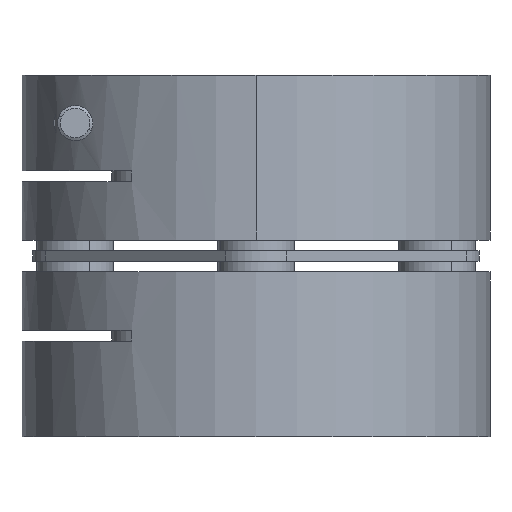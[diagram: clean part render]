
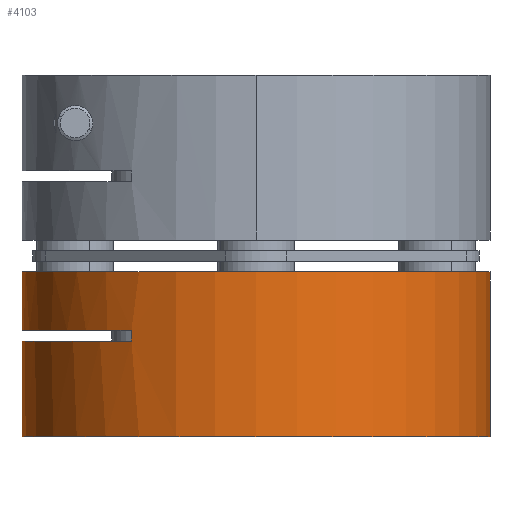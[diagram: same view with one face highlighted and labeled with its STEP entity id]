
A CAD part, left-side view. The second image highlights one B-rep face of the part: STEP entity #4103.
In plain terms, the highlighted cylindrical face has radius 22 mm (diameter 44 mm), a partial arc.
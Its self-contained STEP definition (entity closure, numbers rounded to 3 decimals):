
#1 = DIRECTION ( 'NONE',  ( 0., 0., 1. ) ) ;
#221 = DIRECTION ( 'NONE',  ( 0., 0., 1. ) ) ;
#248 = EDGE_CURVE ( 'NONE', #780, #3291, #8507, .T. ) ;
#448 = DIRECTION ( 'NONE',  ( 0., -1., 0. ) ) ;
#665 = DIRECTION ( 'NONE',  ( 0., 0., 1. ) ) ;
#780 = VERTEX_POINT ( 'NONE', #4946 ) ;
#1038 = AXIS2_PLACEMENT_3D ( 'NONE', #2430, #9519, #3442 ) ;
#1344 = ORIENTED_EDGE ( 'NONE', *, *, #10943, .T. ) ;
#1498 = LINE ( 'NONE', #4295, #8975 ) ;
#1530 = CARTESIAN_POINT ( 'NONE',  ( 5.562, 71.072, 69.386 ) ) ;
#1728 = DIRECTION ( 'NONE',  ( 0., 0., -1. ) ) ;
#2091 = CARTESIAN_POINT ( 'NONE',  ( 5.562, 27.072, 69.386 ) ) ;
#2130 = VERTEX_POINT ( 'NONE', #2482 ) ;
#2146 = AXIS2_PLACEMENT_3D ( 'NONE', #7844, #1728, #8822 ) ;
#2153 = AXIS2_PLACEMENT_3D ( 'NONE', #9978, #3932, #10994 ) ;
#2317 = FACE_OUTER_BOUND ( 'NONE', #10554, .T. ) ;
#2320 = EDGE_CURVE ( 'NONE', #4163, #2130, #3557, .T. ) ;
#2430 = CARTESIAN_POINT ( 'NONE',  ( 5.562, 49.072, 69.386 ) ) ;
#2454 = CARTESIAN_POINT ( 'NONE',  ( 5.562, 71.072, 78.386 ) ) ;
#2482 = CARTESIAN_POINT ( 'NONE',  ( 5.562, 27.072, 84.886 ) ) ;
#2924 = EDGE_CURVE ( 'NONE', #8516, #8389, #7990, .T. ) ;
#2936 = CIRCLE ( 'NONE', #1038, 22. ) ;
#3020 = CIRCLE ( 'NONE', #6405, 22. ) ;
#3291 = VERTEX_POINT ( 'NONE', #6224 ) ;
#3320 = ORIENTED_EDGE ( 'NONE', *, *, #5131, .T. ) ;
#3442 = DIRECTION ( 'NONE',  ( 0., 1., 0. ) ) ;
#3557 = LINE ( 'NONE', #10810, #11636 ) ;
#3924 = VERTEX_POINT ( 'NONE', #6711 ) ;
#3932 = DIRECTION ( 'NONE',  ( 0., 0., 1. ) ) ;
#4096 = DIRECTION ( 'NONE',  ( 0., -1., 0. ) ) ;
#4103 = ADVANCED_FACE ( 'NONE', ( #2317 ), #11834, .T. ) ;
#4163 = VERTEX_POINT ( 'NONE', #2091 ) ;
#4295 = CARTESIAN_POINT ( 'NONE',  ( 5.562, 71.072, 69.386 ) ) ;
#4946 = CARTESIAN_POINT ( 'NONE',  ( -13.063, 60.783, 78.386 ) ) ;
#4950 = EDGE_CURVE ( 'NONE', #4163, #8516, #2936, .T. ) ;
#5131 = EDGE_CURVE ( 'NONE', #2130, #3924, #7090, .T. ) ;
#5260 = VECTOR ( 'NONE', #12780, 1000. ) ;
#5482 = VECTOR ( 'NONE', #6880, 1000. ) ;
#5513 = EDGE_CURVE ( 'NONE', #12888, #3924, #1498, .T. ) ;
#5688 = CARTESIAN_POINT ( 'NONE',  ( 5.562, 71.072, 69.386 ) ) ;
#5739 = ORIENTED_EDGE ( 'NONE', *, *, #248, .F. ) ;
#5992 = CARTESIAN_POINT ( 'NONE',  ( 5.562, 49.072, 69.386 ) ) ;
#6224 = CARTESIAN_POINT ( 'NONE',  ( -13.063, 60.783, 79.386 ) ) ;
#6405 = AXIS2_PLACEMENT_3D ( 'NONE', #12602, #6563, #448 ) ;
#6563 = DIRECTION ( 'NONE',  ( 0., 0., 1. ) ) ;
#6711 = CARTESIAN_POINT ( 'NONE',  ( 5.562, 71.072, 84.886 ) ) ;
#6783 = CARTESIAN_POINT ( 'NONE',  ( -13.063, 60.783, 78.386 ) ) ;
#6880 = DIRECTION ( 'NONE',  ( 0., 0., 1. ) ) ;
#7051 = AXIS2_PLACEMENT_3D ( 'NONE', #5992, #1, #4096 ) ;
#7090 = CIRCLE ( 'NONE', #2146, 22. ) ;
#7844 = CARTESIAN_POINT ( 'NONE',  ( 5.562, 49.072, 84.886 ) ) ;
#7990 = LINE ( 'NONE', #5688, #5260 ) ;
#8371 = CIRCLE ( 'NONE', #2153, 22. ) ;
#8389 = VERTEX_POINT ( 'NONE', #2454 ) ;
#8507 = LINE ( 'NONE', #6783, #5482 ) ;
#8516 = VERTEX_POINT ( 'NONE', #1530 ) ;
#8822 = DIRECTION ( 'NONE',  ( 0., 1., 0. ) ) ;
#8975 = VECTOR ( 'NONE', #221, 1000. ) ;
#9519 = DIRECTION ( 'NONE',  ( 0., 0., -1. ) ) ;
#9950 = ORIENTED_EDGE ( 'NONE', *, *, #10205, .F. ) ;
#9978 = CARTESIAN_POINT ( 'NONE',  ( 5.562, 49.072, 79.386 ) ) ;
#10205 = EDGE_CURVE ( 'NONE', #8389, #780, #3020, .T. ) ;
#10554 = EDGE_LOOP ( 'NONE', ( #11548, #12724, #12369, #3320, #11668, #1344, #5739, #9950 ) ) ;
#10810 = CARTESIAN_POINT ( 'NONE',  ( 5.562, 27.072, 69.386 ) ) ;
#10943 = EDGE_CURVE ( 'NONE', #12888, #3291, #8371, .T. ) ;
#10994 = DIRECTION ( 'NONE',  ( 0., -1., 0. ) ) ;
#11548 = ORIENTED_EDGE ( 'NONE', *, *, #2924, .F. ) ;
#11636 = VECTOR ( 'NONE', #665, 1000. ) ;
#11668 = ORIENTED_EDGE ( 'NONE', *, *, #5513, .F. ) ;
#11834 = CYLINDRICAL_SURFACE ( 'NONE', #7051, 22. ) ;
#12206 = CARTESIAN_POINT ( 'NONE',  ( 5.562, 71.072, 79.386 ) ) ;
#12369 = ORIENTED_EDGE ( 'NONE', *, *, #2320, .T. ) ;
#12602 = CARTESIAN_POINT ( 'NONE',  ( 5.562, 49.072, 78.386 ) ) ;
#12724 = ORIENTED_EDGE ( 'NONE', *, *, #4950, .F. ) ;
#12780 = DIRECTION ( 'NONE',  ( 0., 0., 1. ) ) ;
#12888 = VERTEX_POINT ( 'NONE', #12206 ) ;
